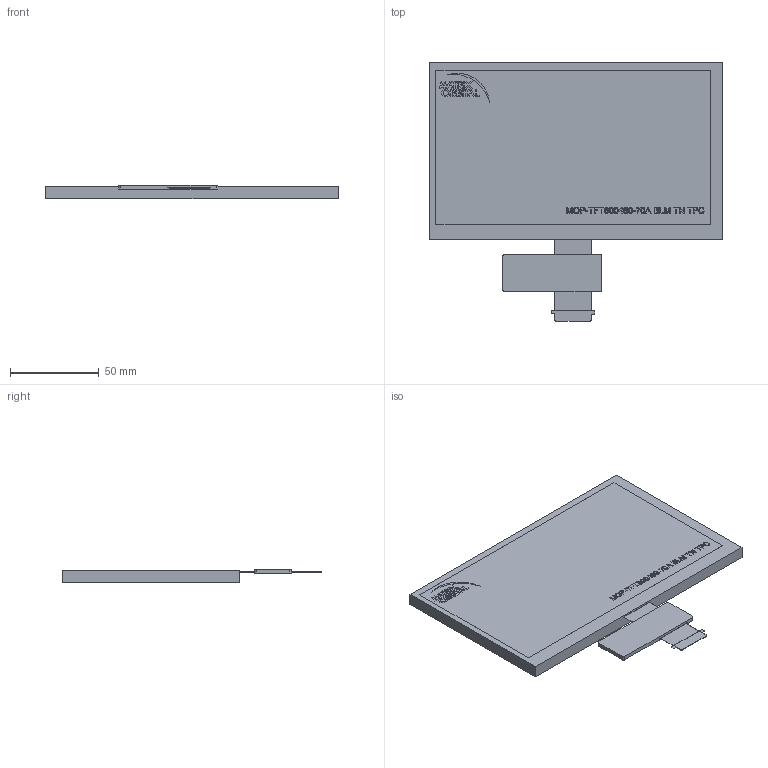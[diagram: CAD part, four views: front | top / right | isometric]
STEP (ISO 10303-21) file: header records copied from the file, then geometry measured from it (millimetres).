
FILE_DESCRIPTION (( 'STEP AP214' ), '1' );
FILE_NAME ('MOP-TFT800480-70A BLM TN TPC.STEP', '2025-08-25T19:02:19', ( '' ), ( '' ), 'SwSTEP 2.0', 'SolidWorks 2021', '' );
FILE_SCHEMA (( 'AUTOMOTIVE_DESIGN' ));
Length unit declared in the file: millimetre
Products named in the file (1): MOP-TFT800480-70A BLM TN TPC
Bounding box: 165 x 146.17 x 7.62 mm (x, y, z)
Volume: 119205.7 mm3; surface area: 40751.3 mm2
Topology: 3 solids, 3 shells, 581 faces, 1548 edges, 1032 vertices
Faces by surface type: plane 444, bspline 119, cylinder 18
Entity records: 25351 total; most frequent: CARTESIAN_POINT 10905, ORIENTED_EDGE 3096, DIRECTION 2272, EDGE_CURVE 1548, VECTOR 1274, LINE 1274, VERTEX_POINT 1032, EDGE_LOOP 640
